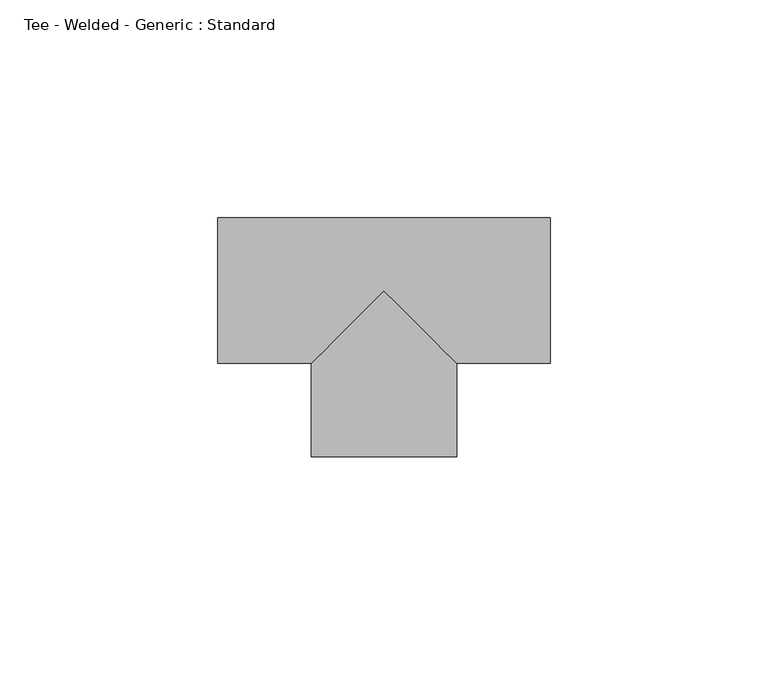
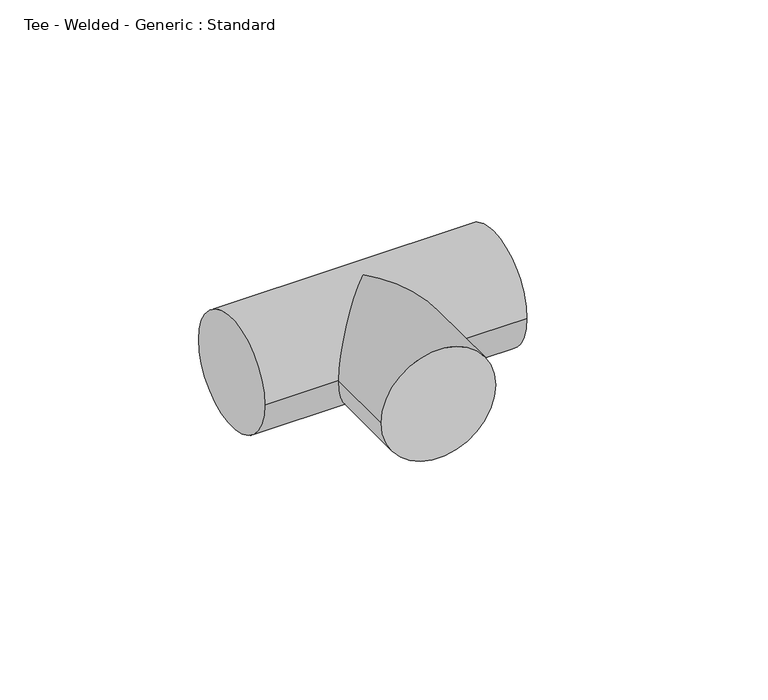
"""IFC4 building model written with IfcOpenShell, lengths in millimetres: pipe fitting geometry, Tee - Welded - Generic : Standard."""

import ifcopenshell
import ifcopenshell.guid

model = None  # the IFC model being written
_history = None  # IfcOwnerHistory: only IFC2X3 demands one
_inside = {}  # id of a spatial element -> (the spatial element, [elements in it])
_under = {}  # id of a project, library or spatial element -> (it, [spatial elements below it])
_declared = {}  # id of a project -> (the project, [libraries it declares])
_typed = {}  # id of a type object -> (the type object, [elements of that type])
_made_of = {}  # id of a material, layer set ... -> (it, [elements and type objects made of it])


def new_model(schema):
    """Start an empty IFC model of exactly this schema.

    Asked for "IFC4X3", IfcOpenShell would pick the latest addendum, in which some entities
    have other attributes; the version numbers below select the first issue.
    IFC2X3 requires an IfcOwnerHistory on every rooted entity: one is made here for all.
    """
    global model, _history
    if schema == "IFC4X3":
        model = ifcopenshell.file(schema_version=(4, 3, 0, 0))
    else:
        model = ifcopenshell.file(schema=schema)
    _inside.clear()
    _under.clear()
    _declared.clear()
    _typed.clear()
    _made_of.clear()
    _history = None
    if model.schema == "IFC2X3":
        org = make("IfcOrganization", Name="unknown")
        user = make(
            "IfcPersonAndOrganization",
            ThePerson=make("IfcPerson", FamilyName="unknown"),
            TheOrganization=org,
        )
        app = make(
            "IfcApplication",
            ApplicationDeveloper=org,
            Version="unknown",
            ApplicationFullName="unknown",
            ApplicationIdentifier="unknown",
        )
        _history = make(
            "IfcOwnerHistory",
            OwningUser=user,
            OwningApplication=app,
            ChangeAction="ADDED",
            CreationDate=0,
        )
    return model


def make(cls, **values):
    """One entity of the class cls with the attributes given. An attribute that is None is left unset."""
    return model.create_entity(
        cls, **{name: value for name, value in values.items() if value is not None}
    )


def rooted(cls, **values):
    """An entity with a GlobalId (a new one), such as an element, a storey or a relation."""
    return make(cls, GlobalId=ifcopenshell.guid.new(), OwnerHistory=_history, **values)


def si_unit(unit_type, name, prefix=None):
    """IfcSIUnit, for example si_unit("LENGTHUNIT", "METRE", prefix="MILLI")."""
    return make("IfcSIUnit", UnitType=unit_type, Prefix=prefix, Name=name)


def assignment(units):
    """IfcUnitAssignment: the units of a project."""
    return None if units is None else make("IfcUnitAssignment", Units=units)


def point(xyz):
    """IfcCartesianPoint."""
    return None if xyz is None else make("IfcCartesianPoint", Coordinates=xyz)


def direction(xyz):
    """IfcDirection."""
    return None if xyz is None else make("IfcDirection", DirectionRatios=xyz)


def frame(location, z_axis=None, x_axis=None):
    """IfcAxis2Placement3D, a coordinate frame: its origin and axes. An axis left out is left unset."""
    return make(
        "IfcAxis2Placement3D",
        Location=point(location),
        Axis=direction(z_axis),
        RefDirection=direction(x_axis),
    )


def origin():
    """The frame at (0, 0, 0) with its axes left unset."""
    return frame((0.0, 0.0, 0.0))


def place(relative_to, where):
    """IfcLocalPlacement: puts the frame where relative to a parent placement (None: the world)."""
    return make(
        "IfcLocalPlacement", PlacementRelTo=relative_to, RelativePlacement=where
    )


def context(
    kind, dimensions, precision=None, world=None, true_north=None, identifier=None
):
    """IfcGeometricRepresentationContext, for example the 3D "Model" context."""
    return make(
        "IfcGeometricRepresentationContext",
        ContextIdentifier=identifier,
        ContextType=kind,
        CoordinateSpaceDimension=dimensions,
        Precision=precision,
        WorldCoordinateSystem=world,
        TrueNorth=true_north,
    )


def project(units=None, contexts=None):
    """IfcProject with its units and contexts."""
    return rooted(
        "IfcProject",
        Name="project",
        RepresentationContexts=contexts,
        UnitsInContext=assignment(units),
    )


def spatial(cls, under=None, at=None, **own):
    """A site, building, storey or space (cls), placed at a placement, below another one or the project."""
    s = rooted(cls, ObjectPlacement=at, **own)
    if under is not None:
        _under.setdefault(under.id(), (under, []))[1].append(s)
    return s


def circle_curve(where, radius):
    """IfcCircle in the frame where."""
    return make("IfcCircle", Position=where, Radius=radius)


def ellipse_curve(where, semi_axis1, semi_axis2):
    """IfcEllipse in the frame where."""
    return make(
        "IfcEllipse", Position=where, SemiAxis1=semi_axis1, SemiAxis2=semi_axis2
    )


def shape(context_of_items, identifier, shape_type, items):
    """IfcShapeRepresentation: the items that make up one representation, for example the "Body"."""
    return make(
        "IfcShapeRepresentation",
        ContextOfItems=context_of_items,
        RepresentationIdentifier=identifier,
        RepresentationType=shape_type,
        Items=items,
    )


def source(mapping_origin, context_of_items, identifier, shape_type, items):
    """IfcRepresentationMap: a shape defined once, which mapped items show again and again."""
    return make(
        "IfcRepresentationMap",
        MappingOrigin=mapping_origin,
        MappedRepresentation=shape(context_of_items, identifier, shape_type, items),
    )


def transform(
    local_origin,
    x_axis=None,
    y_axis=None,
    z_axis=None,
    scale=None,
    scale2=None,
    scale3=None,
    uniform=True,
):
    """IfcCartesianTransformationOperator3D, or its non-uniform kind. x_axis, y_axis, z_axis: its Axis1, 2, 3."""
    if uniform:
        return make(
            "IfcCartesianTransformationOperator3D",
            Axis1=direction(x_axis),
            Axis2=direction(y_axis),
            LocalOrigin=point(local_origin),
            Scale=scale,
            Axis3=direction(z_axis),
        )
    return make(
        "IfcCartesianTransformationOperator3DnonUniform",
        Axis1=direction(x_axis),
        Axis2=direction(y_axis),
        LocalOrigin=point(local_origin),
        Scale=scale,
        Axis3=direction(z_axis),
        Scale2=scale2,
        Scale3=scale3,
    )


def mapped(mapping_source, mapping_target):
    """IfcMappedItem: shows the shape of a source again, moved by a transform."""
    return make(
        "IfcMappedItem", MappingSource=mapping_source, MappingTarget=mapping_target
    )


def made_of(thing, what):
    """Note that an element or type object is made of a material, layer set ...; save() writes the relation."""
    if what is not None:
        _made_of.setdefault(what.id(), (what, []))[1].append(thing)
    return thing


def element(
    cls,
    number,
    at=None,
    inside=None,
    cuts=None,
    type_object=None,
    material=None,
    context=None,
    identifier="Body",
    shape_type=None,
    held_by="IfcProductDefinitionShape",
    body=None,
    shapes=None,
    **own,
):
    """One element of the class cls, such as IfcWall. Its Tag is "e" and its number.

    at: its placement. inside: the storey or other place that contains it. cuts: it is an
    opening in that element (IfcRelVoidsElement). A single representation is given by context,
    identifier, shape_type and body (its items); several are given by shapes. held_by: the class
    of the entity that holds the representations. save() writes the other relations.
    """
    e = rooted(cls, Tag="e%d" % number, ObjectPlacement=at, **own)
    if body is not None:
        shapes = [shape(context, identifier, shape_type, body)]
    if shapes is not None:
        e.Representation = make(held_by, Representations=shapes)
    if inside is not None:
        _inside.setdefault(inside.id(), (inside, []))[1].append(e)
    if cuts is not None:
        rooted(
            "IfcRelVoidsElement", RelatingBuildingElement=cuts, RelatedOpeningElement=e
        )
    if type_object is not None:
        _typed.setdefault(type_object.id(), (type_object, []))[1].append(e)
    return made_of(e, material)


def aggregate(whole, parts):
    """IfcRelAggregates: a whole, such as a stair, and the parts it consists of."""
    return rooted("IfcRelAggregates", RelatingObject=whole, RelatedObjects=parts)


def save(model, path):
    """Write the relations noted so far, then the file.

    IfcRelAggregates (storeys below a building ...), IfcRelContainedInSpatialStructure (elements
    in a storey), IfcRelDefinesByType, IfcRelAssociatesMaterial and IfcRelDeclares: one each for
    every whole, place, type object, material and project.
    """
    for whole, parts in _under.values():
        aggregate(whole, parts)
    for where, things in _inside.values():
        rooted(
            "IfcRelContainedInSpatialStructure",
            RelatedElements=things,
            RelatingStructure=where,
        )
    for kind, things in _typed.values():
        rooted("IfcRelDefinesByType", RelatedObjects=things, RelatingType=kind)
    for what, things in _made_of.values():
        rooted("IfcRelAssociatesMaterial", RelatedObjects=things, RelatingMaterial=what)
    for by, libraries in _declared.values():
        rooted("IfcRelDeclares", RelatingContext=by, RelatedDefinitions=libraries)
    model.write(path)


def plane_surface(at):
    """IfcPlane: the flat surface through the origin of the frame at, square to its z axis."""
    return make("IfcPlane", Position=at)


def cylinder_surface(at, radius):
    """IfcCylindricalSurface: all points at the distance radius from the z axis of the frame at."""
    return make("IfcCylindricalSurface", Position=at, Radius=radius)


def advanced_brep(points, edges, surfaces, faces):
    """IfcAdvancedBrep: a solid bounded by faces that lie on surfaces and meet in shared edges.

    An edge is (start, end): straight between two places in points (the first is 0);
    or (start, end, curve); or (start, end, curve, False) where it runs against its curve.
    A face is (place in surfaces, loops), or (place, loops, False) where it looks against
    its surface's normal. A loop lists edges by number (the first is 1), with a minus sign
    where the edge is run from its end to its start. The first loop is the outer one.
    """
    corners = [point(p) for p in points]
    vertices = [make("IfcVertexPoint", VertexGeometry=c) for c in corners]
    made = []
    for start, end, *more in edges:
        made.append(
            make(
                "IfcEdgeCurve",
                EdgeStart=vertices[start],
                EdgeEnd=vertices[end],
                EdgeGeometry=more[0] if more else make("IfcPolyline", Points=[corners[start], corners[end]]),
                SameSense=more[1] if len(more) > 1 else True,
            )
        )
    hull = []
    for where, loops, *sense in faces:
        bounds = []
        for j, loop in enumerate(loops):
            ring = [make("IfcOrientedEdge", EdgeElement=made[abs(k) - 1], Orientation=k > 0) for k in loop]
            bounds.append(
                make(
                    "IfcFaceOuterBound" if j == 0 else "IfcFaceBound",
                    Bound=make("IfcEdgeLoop", EdgeList=ring),
                    Orientation=True,
                )
            )
        hull.append(make("IfcAdvancedFace", Bounds=bounds, FaceSurface=surfaces[where], SameSense=sense[0] if sense else True))
    return make("IfcAdvancedBrep", Outer=make("IfcClosedShell", CfsFaces=hull))


def tee_welded_generic_standard_e36a56fc(model_context):
    return source(origin(), model_context, "Body", "AdvancedBrep", [
        advanced_brep(
        [(-38.1, -16.66875, 0.0), (-38.1, 16.66875, 0.0), (38.1, -16.66875, 0.0), (38.1, 16.66875, 0.0), (-16.6687495, -16.66875, 0.0), (0.0, 0.0, 16.66875), (16.6687505, -16.66875, 0.0), (0.0, 0.0, -16.66875), (-16.6687489, -38.1000005, 0.0), (16.6687511, -38.0999995, 0.0)],
        [
            (0, 1, circle_curve(frame((-38.1, 0.0, 0.0), z_axis=(-1.0, 0.0, 0.0), x_axis=(0.0, 1.0, 0.0)), 16.66875)),
            (1, 0, circle_curve(frame((-38.1, 0.0, 0.0), z_axis=(-1.0, 0.0, 0.0), x_axis=(0.0, 1.0, 0.0)), 16.66875)),
            (2, 3, circle_curve(frame((38.1, 0.0, 0.0), z_axis=(1.0, 0.0, 0.0), x_axis=(0.0, 1.0, 0.0)), 16.66875)),
            (3, 2, circle_curve(frame((38.1, 0.0, 0.0), z_axis=(1.0, 0.0, 0.0), x_axis=(0.0, 1.0, 0.0)), 16.66875)),
            (0, 4),
            (4, 5, ellipse_curve(frame((0.0, 0.0, 0.0), z_axis=(-0.7071067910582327, 0.707106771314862, 0.0), x_axis=(-0.7071067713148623, -0.7071067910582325, 0.0)), 23.573172, 16.66875)),
            (5, 6, ellipse_curve(frame((0.0, 0.0, 0.0), z_axis=(0.707106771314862, 0.7071067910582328, 0.0), x_axis=(-0.7071067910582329, 0.7071067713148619, 0.0)), 23.5731726, 16.66875)),
            (6, 2),
            (3, 1),
            (6, 7, ellipse_curve(frame((0.0, 0.0, 0.0), z_axis=(0.707106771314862, 0.7071067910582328, 0.0), x_axis=(-0.7071067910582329, 0.7071067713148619, 0.0)), 23.5731726, 16.66875)),
            (7, 4, ellipse_curve(frame((0.0, 0.0, 0.0), z_axis=(-0.7071067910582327, 0.707106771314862, 0.0), x_axis=(-0.7071067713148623, -0.7071067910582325, 0.0)), 23.573172, 16.66875)),
            (8, 9, circle_curve(frame((1.1e-06, -38.1, 0.0), z_axis=(2.792134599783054e-08, -0.9999999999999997, 0.0), x_axis=(0.9999999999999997, 2.792134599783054e-08, 0.0)), 16.66875)),
            (9, 8, circle_curve(frame((1.1e-06, -38.1, 0.0), z_axis=(2.792134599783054e-08, -0.9999999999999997, 0.0), x_axis=(0.9999999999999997, 2.792134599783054e-08, 0.0)), 16.66875)),
            (9, 6),
            (4, 8),
        ],
        [
            plane_surface(frame((-38.1, 0.0, 0.0), z_axis=(-1.0, 0.0, 0.0), x_axis=(0.0, 0.0, 1.0))),
            plane_surface(frame((38.1, 0.0, 0.0), z_axis=(1.0, 0.0, 0.0), x_axis=(0.0, 0.0, 1.0))),
            cylinder_surface(frame((-38.1, 0.0, 0.0), z_axis=(-1.0, 0.0, 0.0), x_axis=(0.0, 1.0, 0.0)), 16.66875),
            plane_surface(frame((1.1e-06, -38.1, 0.0), z_axis=(2.792134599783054e-08, -0.9999999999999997, 0.0), x_axis=(0.0, 0.0, 1.0))),
            cylinder_surface(frame((0.0, 0.0, 0.0), z_axis=(-2.792134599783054e-08, 0.9999999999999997, 0.0), x_axis=(0.9999999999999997, 2.792134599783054e-08, 0.0)), 16.66875),
        ],
        [
            (0, [[1, 2]]),
            (1, [[3, 4]]),
            (2, [[-1, 5, 6, 7, 8, -4, 9]]),
            (2, [[-2, -9, -3, -8, 10, 11, -5]]),
            (3, [[12, 13]]),
            (4, [[-13, 14, -7, -6, 15]]),
            (4, [[-12, -15, -11, -10, -14]]),
        ],
    ),
    ])


if __name__ == "__main__":
    model = new_model("IFC4")
    model_context = context("Model", 3, world=origin())
    ifc_project = project(units=[si_unit("LENGTHUNIT", "METRE", prefix="MILLI")], contexts=[model_context])
    site = spatial("IfcSite", under=ifc_project)
    building = spatial("IfcBuilding", under=site)
    placement = place(None, origin())
    tee_welded_generic_standard_shape = tee_welded_generic_standard_e36a56fc(model_context)
    element("IfcPipeFitting", 1, ObjectType="Tee - Welded - Generic : Standard", at=placement, inside=building, context=model_context, shape_type="MappedRepresentation", body=[
        mapped(tee_welded_generic_standard_shape, transform((0.0, 0.0, 0.0), x_axis=(1.0, 0.0, 0.0), y_axis=(0.0, 1.0, 0.0), z_axis=(0.0, 0.0, 1.0))),
    ])
    save(model, "model.ifc")
